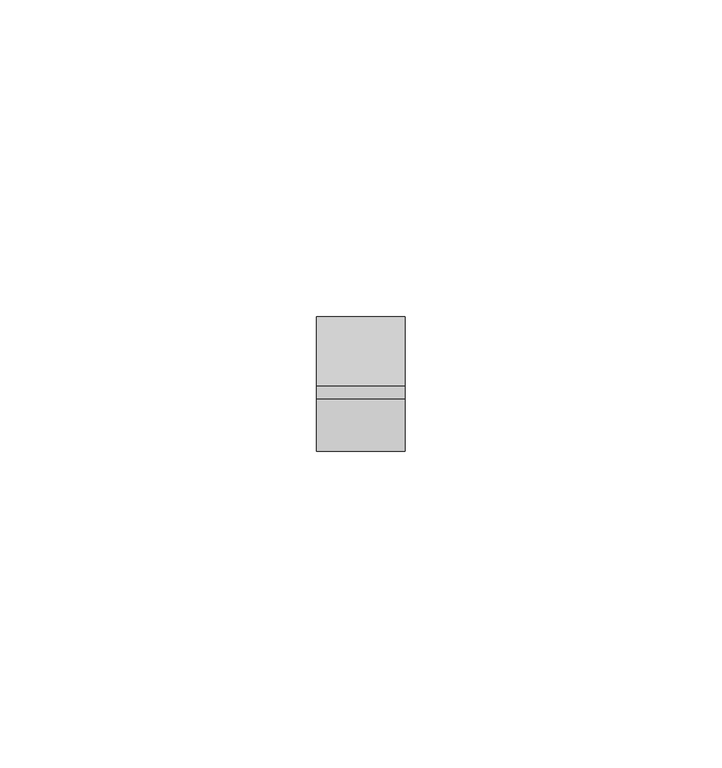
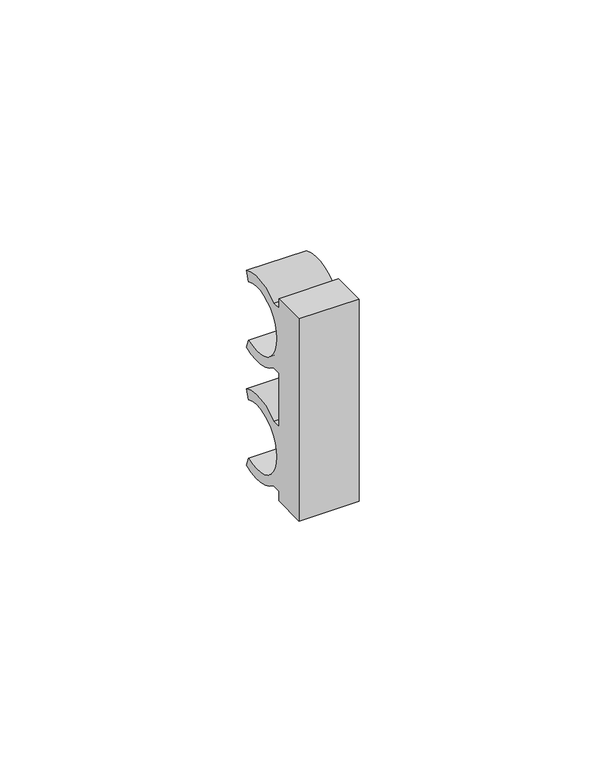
"""IFC4 building model written with IfcOpenShell, lengths in millimetres: valve geometry, PP-R_Double clip : DN16 PP-R double clip."""

from ifc_helpers import new_model, si_unit, point, frame, frame_2d, origin, place, context, project, spatial, polyline, circle_curve, trimmed, segment, composite_curve, outline, extrude, source, transform, mapped, element, save


def valve_f467247f(model_context):
    return source(origin(), model_context, "Body", "SweptSolid", [
        extrude(outline(composite_curve([segment(trimmed(circle_curve(frame_2d((0.0, 18.0)), 8.0), [point((3.4202014, 25.2320275))], [point((3.4202014, 10.7679725))], True, "CARTESIAN"), True, "CONTINUOUS"), segment(polyline([(3.4202014, 10.7679725), (4.243768, 8.5052418)]), True, "CONTINUOUS"), segment(trimmed(circle_curve(frame_2d((0.0, 18.0)), 10.4), [point((4.243768, 8.5052418))], [point((-6.6452991, 10.0))], False, "CARTESIAN"), True, "CONTINUOUS"), segment(polyline([(-6.6452991, 10.0), (-8.8, 10.0), (-8.8, 7.6), (-17.0, 7.6), (-17.0, 57.6), (-8.8, 57.6), (-8.8, 55.2), (-6.6452991, 55.2)]), True, "CONTINUOUS"), segment(trimmed(circle_curve(frame_2d((0.0, 47.2)), 10.4), [point((-6.6452991, 55.2))], [point((4.243768, 56.6947582))], False, "CARTESIAN"), True, "CONTINUOUS"), segment(polyline([(4.243768, 56.6947582), (3.4202014, 54.4320275)]), True, "CONTINUOUS"), segment(trimmed(circle_curve(frame_2d((0.0, 47.2)), 8.0), [point((3.4202014, 54.4320275))], [point((3.4202014, 39.9679725))], True, "CARTESIAN"), True, "CONTINUOUS"), segment(polyline([(3.4202014, 39.9679725), (4.243768, 37.7052418)]), True, "CONTINUOUS"), segment(trimmed(circle_curve(frame_2d((0.0, 47.2)), 10.4), [point((4.243768, 37.7052418))], [point((-6.6452991, 39.2))], False, "CARTESIAN"), True, "CONTINUOUS"), segment(polyline([(-6.6452991, 39.2), (-8.8, 39.2), (-8.8, 26.0), (-6.6452991, 26.0)]), True, "CONTINUOUS"), segment(trimmed(circle_curve(frame_2d((0.0, 18.0)), 10.4), [point((-6.6452991, 26.0))], [point((4.243768, 27.4947582))], False, "CARTESIAN"), True, "CONTINUOUS"), segment(polyline([(4.243768, 27.4947582), (3.4202014, 25.2320275)]), True, "CONTINUOUS")], self_intersect=False)), frame((9.5156627, 0.0, 0.0), z_axis=(1.0, 0.0, 0.0), x_axis=(0.0, 1.0, 0.0)), (0.0, 0.0, 1.0), 14.0),
    ])


if __name__ == "__main__":
    model = new_model("IFC4")
    model_context = context("Model", 3, world=origin())
    ifc_project = project(units=[si_unit("LENGTHUNIT", "METRE", prefix="MILLI")], contexts=[model_context])
    site = spatial("IfcSite", under=ifc_project)
    building = spatial("IfcBuilding", under=site)
    placement = place(None, origin())
    valve_shape = valve_f467247f(model_context)
    element("IfcValve", 1, ObjectType="PP-R_Double clip : DN16 PP-R double clip", at=placement, inside=building, context=model_context, shape_type="MappedRepresentation", body=[
        mapped(valve_shape, transform((0.0, 0.0, 0.0), x_axis=(1.0, 0.0, 0.0), y_axis=(0.0, 1.0, 0.0), z_axis=(0.0, 0.0, 1.0))),
    ])
    save(model, "model.ifc")
